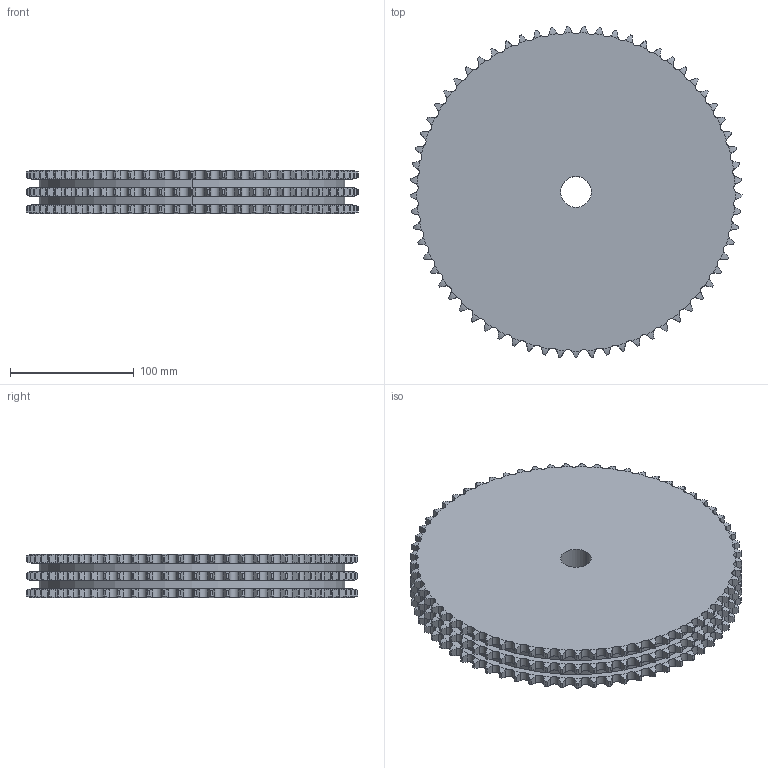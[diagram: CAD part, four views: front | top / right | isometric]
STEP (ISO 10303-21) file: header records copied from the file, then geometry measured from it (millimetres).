
FILE_DESCRIPTION((''),'2;1');
FILE_NAME('500-203-0065_PRT','2021-02-12T',('Brieden'),('Brieden'),'PRO/ENGINEER BY PARAMETRIC TECHNOLOGY CORPORATION, 2010160','PRO/ENGINEER BY PARAMETRIC TECHNOLOGY CORPORATION, 2010160','');
FILE_SCHEMA(('AUTOMOTIVE_DESIGN { 1 0 10303 214 1 1 1 1 }'));
Length unit declared in the file: millimetre
Products named in the file (1): 500-203-0065_PRT
Bounding box: 268.09 x 268.01 x 34.9 mm (x, y, z)
Volume: 1765492.8 mm3; surface area: 164959.6 mm2
Topology: 1 solids, 1 shells, 1182 faces, 3528 edges, 2352 vertices
Faces by surface type: cylinder 786, torus 390, plane 6
Entity records: 58005 total; most frequent: CARTESIAN_POINT 17478, ORIENTED_EDGE 7056, DIRECTION 5514, PRESENTATION_STYLE_ASSIGNMENT 3529, STYLED_ITEM 3529, CURVE_STYLE 3528, EDGE_CURVE 3528, AXIS2_PLACEMENT_3D 2364
